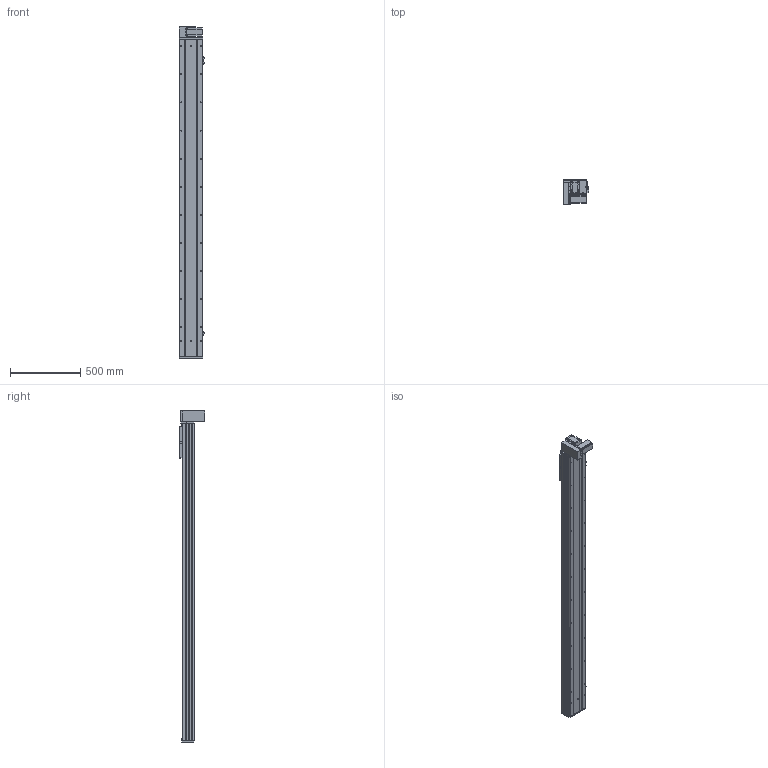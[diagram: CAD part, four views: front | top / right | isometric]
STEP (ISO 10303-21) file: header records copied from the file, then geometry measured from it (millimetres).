
FILE_DESCRIPTION (( 'STEP AP203' ), '1' );
FILE_NAME ('Y170CB-D105-S1950-BM-P400W.STEP', '2020-02-20T07:18:33', ( '微软用户' ), ( '微软中国' ), 'SwSTEP 2.0', 'SolidWorks 2017', '' );
FILE_SCHEMA (( 'CONFIG_CONTROL_DESIGN' ));
Length unit declared in the file: millimetre
Products named in the file (18): Y1埴倛裔; 70CB-耜裔啣-; 17B-耜蚾蟀諉啣----; 70C--詩湍揤踡え-; 00B-俋欶BM--163; 70CB--耜裔; 70B喘謫眊----; 70C-雄赽釱-奻-; B-源倛裔啣; Y170CB-D105-S1950-BM-P400W; 0C--雄赽釱俋欶-170; 0B-萇儂楊擘啣; 70CB-詩湍--; san松下电机400不带刹车----; Y100-135俋离換覜ん--; 70CB-掛极-; Y170CB-陔俋离換覜結え---; --70CB --喘謫眊楊擘啣-
Assembly tree (21 placements, depth 2):
  Y170CB-D105-S1950-BM-P400W
    B-源倛裔啣
    0B-萇儂楊擘啣
    san松下电机400不带刹车----
    70CB-掛极-
    --70CB --喘謫眊楊擘啣-
    70CB-耜裔啣-  x2
    70C--詩湍揤踡え-  x2
    70CB--耜裔
    70C-雄赽釱-奻-
    0C--雄赽釱俋欶-170
    70CB-詩湍--
    Y100-135俋离換覜ん--  x3
    Y170CB-陔俋离換覜結え---
    Y1埴倛裔
    17B-耜蚾蟀諉啣----
    00B-俋欶BM--163
    70B喘謫眊----
Bounding box: 183.5 x 184 x 2366 mm (x, y, z)
Volume: 10279712.2 mm3; surface area: 3705828.5 mm2
Topology: 21 solids, 21 shells, 1047 faces, 2813 edges, 1866 vertices
Faces by surface type: cylinder 561, plane 462, cone 24
Entity records: 33496 total; most frequent: CARTESIAN_POINT 6156, DIRECTION 5450, ORIENTED_EDGE 5108, EDGE_CURVE 2554, AXIS2_PLACEMENT_3D 2008, VERTEX_POINT 1696, VECTOR 1434, LINE 1434
